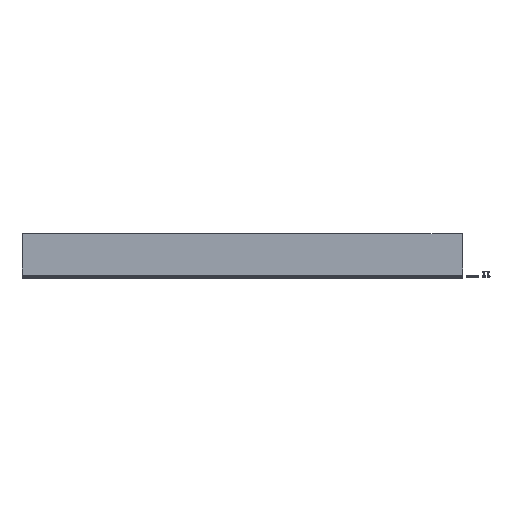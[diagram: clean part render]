
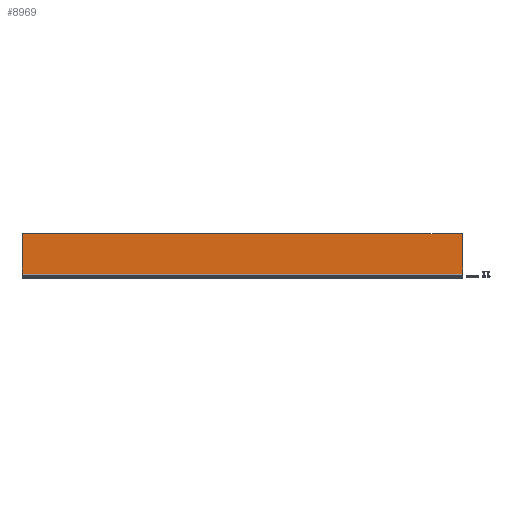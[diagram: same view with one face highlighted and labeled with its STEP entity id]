
A CAD part, top view. The second image highlights one B-rep face of the part: STEP entity #8969.
In plain terms, the highlighted planar face has unit normal (0, 0, 1) as drawn and (1, 0, 0) by its records, which use the part's own axes.
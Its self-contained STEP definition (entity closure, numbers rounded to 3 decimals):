
#725 = VERTEX_POINT ( 'NONE', #3762 ) ;
#957 = EDGE_CURVE ( 'NONE', #725, #9966, #6799, .T. ) ;
#1021 = DIRECTION ( 'NONE',  ( -1., 0., 0. ) ) ;
#1385 = VERTEX_POINT ( 'NONE', #4188 ) ;
#1412 = CARTESIAN_POINT ( 'NONE',  ( -25., -50.25, 611.5 ) ) ;
#1532 = VERTEX_POINT ( 'NONE', #5891 ) ;
#2241 = CARTESIAN_POINT ( 'NONE',  ( -25., -51.25, 611.5 ) ) ;
#2552 = DIRECTION ( 'NONE',  ( 0., 1., 0. ) ) ;
#2912 = DIRECTION ( 'NONE',  ( 0., -1., 0. ) ) ;
#3409 = ORIENTED_EDGE ( 'NONE', *, *, #6882, .T. ) ;
#3762 = CARTESIAN_POINT ( 'NONE',  ( -25., 60.25, -611.5 ) ) ;
#4188 = CARTESIAN_POINT ( 'NONE',  ( -25., -50.25, -611.5 ) ) ;
#5058 = LINE ( 'NONE', #12739, #7483 ) ;
#5221 = EDGE_CURVE ( 'NONE', #1532, #14079, #5762, .T. ) ;
#5250 = LINE ( 'NONE', #10473, #8548 ) ;
#5362 = ORIENTED_EDGE ( 'NONE', *, *, #5221, .T. ) ;
#5528 = CARTESIAN_POINT ( 'NONE',  ( -25., 62.25, 611.5 ) ) ;
#5714 = AXIS2_PLACEMENT_3D ( 'NONE', #9219, #11848, #2912 ) ;
#5721 = EDGE_CURVE ( 'NONE', #1385, #725, #5250, .T. ) ;
#5762 = CIRCLE ( 'NONE', #15309, 2. ) ;
#5891 = CARTESIAN_POINT ( 'NONE',  ( -25., 62.25, 609.5 ) ) ;
#6134 = ORIENTED_EDGE ( 'NONE', *, *, #15734, .F. ) ;
#6261 = DIRECTION ( 'NONE',  ( 0., 0., -1. ) ) ;
#6799 = CIRCLE ( 'NONE', #5714, 2. ) ;
#6866 = EDGE_LOOP ( 'NONE', ( #14274, #8711, #6134, #5362, #15047, #3409 ) ) ;
#6882 = EDGE_CURVE ( 'NONE', #9278, #1385, #5058, .T. ) ;
#6919 = CARTESIAN_POINT ( 'NONE',  ( -25., 60.25, 609.5 ) ) ;
#7483 = VECTOR ( 'NONE', #6261, 1000. ) ;
#7620 = EDGE_CURVE ( 'NONE', #9278, #14079, #16860, .T. ) ;
#7836 = DIRECTION ( 'NONE',  ( 0., 0., -1. ) ) ;
#8456 = DIRECTION ( 'NONE',  ( 0., -1., 0. ) ) ;
#8548 = VECTOR ( 'NONE', #15657, 1000. ) ;
#8711 = ORIENTED_EDGE ( 'NONE', *, *, #957, .T. ) ;
#8969 = ADVANCED_FACE ( 'NONE', ( #11181 ), #13922, .F. ) ;
#9219 = CARTESIAN_POINT ( 'NONE',  ( -25., 60.25, -609.5 ) ) ;
#9278 = VERTEX_POINT ( 'NONE', #1412 ) ;
#9966 = VERTEX_POINT ( 'NONE', #12430 ) ;
#10473 = CARTESIAN_POINT ( 'NONE',  ( -25., -51.25, -611.5 ) ) ;
#11181 = FACE_OUTER_BOUND ( 'NONE', #6866, .T. ) ;
#11594 = VECTOR ( 'NONE', #7836, 1000. ) ;
#11753 = CARTESIAN_POINT ( 'NONE',  ( -25., 60.25, 611.5 ) ) ;
#11848 = DIRECTION ( 'NONE',  ( 1., 0., 0. ) ) ;
#12430 = CARTESIAN_POINT ( 'NONE',  ( -25., 62.25, -609.5 ) ) ;
#12622 = DIRECTION ( 'NONE',  ( 0., -1., 0. ) ) ;
#12739 = CARTESIAN_POINT ( 'NONE',  ( -25., -50.25, -611.5 ) ) ;
#13341 = AXIS2_PLACEMENT_3D ( 'NONE', #2241, #1021, #12622 ) ;
#13922 = PLANE ( 'NONE',  #13341 ) ;
#14079 = VERTEX_POINT ( 'NONE', #11753 ) ;
#14274 = ORIENTED_EDGE ( 'NONE', *, *, #5721, .T. ) ;
#14476 = CARTESIAN_POINT ( 'NONE',  ( -25., -51.25, 611.5 ) ) ;
#15047 = ORIENTED_EDGE ( 'NONE', *, *, #7620, .F. ) ;
#15309 = AXIS2_PLACEMENT_3D ( 'NONE', #6919, #15871, #8456 ) ;
#15657 = DIRECTION ( 'NONE',  ( 0., 1., 0. ) ) ;
#15734 = EDGE_CURVE ( 'NONE', #1532, #9966, #15846, .T. ) ;
#15846 = LINE ( 'NONE', #5528, #11594 ) ;
#15871 = DIRECTION ( 'NONE',  ( 1., 0., 0. ) ) ;
#16759 = VECTOR ( 'NONE', #2552, 1000. ) ;
#16860 = LINE ( 'NONE', #14476, #16759 ) ;
